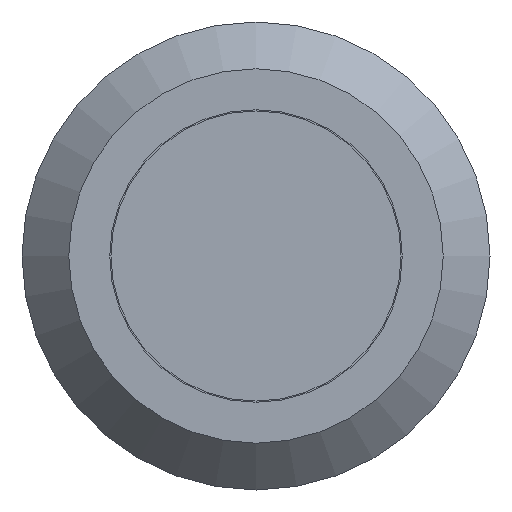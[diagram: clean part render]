
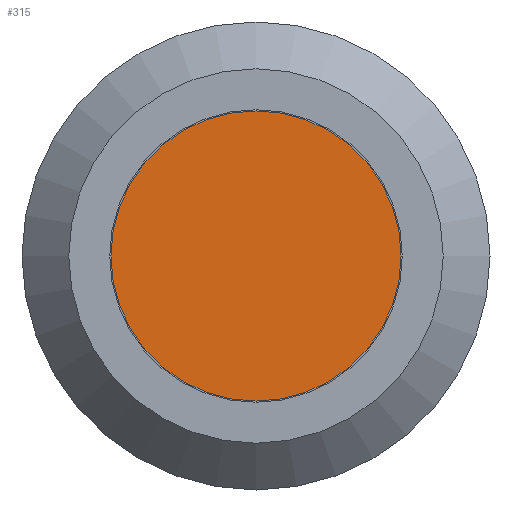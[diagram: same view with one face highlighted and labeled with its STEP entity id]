
A CAD part, front view. The second image highlights one B-rep face of the part: STEP entity #315.
In plain terms, the highlighted planar face has unit normal (0, -1, 0).
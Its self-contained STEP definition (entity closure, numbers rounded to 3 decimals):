
#96=ORIENTED_EDGE('',*,*,#164,.T.);
#164=EDGE_CURVE('',#202,#202,#223,.T.);
#202=VERTEX_POINT('',#512);
#223=CIRCLE('',#357,2.48);
#246=EDGE_LOOP('',(#96));
#276=FACE_BOUND('',#246,.T.);
#294=PLANE('',#358);
#315=ADVANCED_FACE('',(#276),#294,.F.);
#357=AXIS2_PLACEMENT_3D('',#511,#416,#417);
#358=AXIS2_PLACEMENT_3D('',#513,#418,#419);
#416=DIRECTION('',(0.,-1.,0.));
#417=DIRECTION('',(0.,0.,-1.));
#418=DIRECTION('',(0.,1.,0.));
#419=DIRECTION('',(0.,0.,1.));
#511=CARTESIAN_POINT('',(0.,0.,0.));
#512=CARTESIAN_POINT('',(0.,0.,-2.48));
#513=CARTESIAN_POINT('',(2.48,0.,0.));
